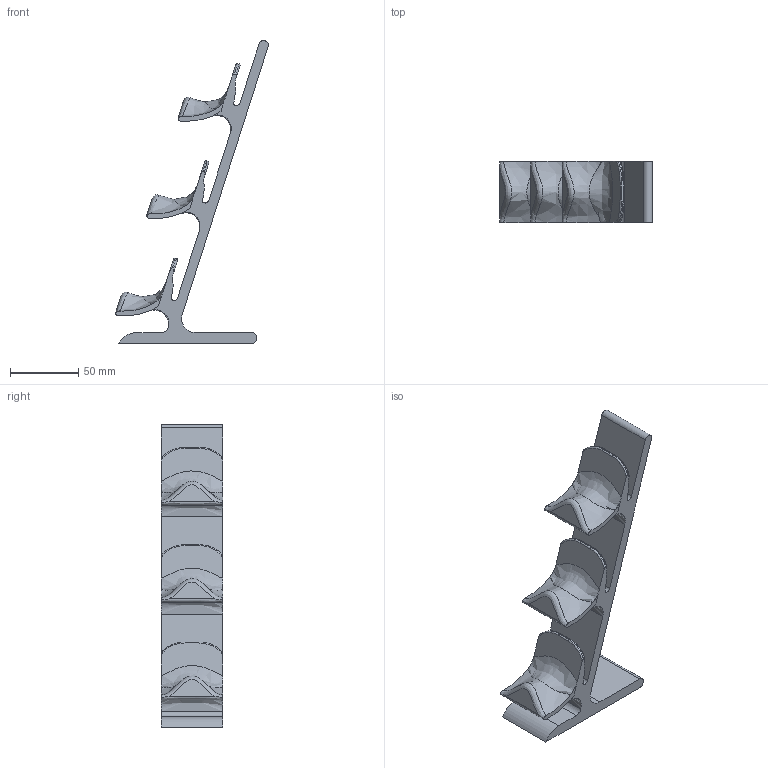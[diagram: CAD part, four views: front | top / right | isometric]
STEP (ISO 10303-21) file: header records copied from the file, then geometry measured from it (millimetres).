
FILE_DESCRIPTION(/* description */ (''),/* implementation_level */ '2;1');
FILE_NAME(/* name */ 'Support lunettes - prsentoire 3 places.step',/* time_stamp */ '2025-07-16T16:20:02+02:00',/* author */ (''),/* organization */ (''),/* preprocessor_version */ 'ST-DEVELOPER v20.1',/* originating_system */ 'Autodesk Translation Framework v14.10.0.0',/* authorisation */ '');
FILE_SCHEMA (('AUTOMOTIVE_DESIGN { 1 0 10303 214 3 1 1 }'));
Length unit declared in the file: millimetre
Products named in the file (1): Support lunettes - présentoire 4 places
Bounding box: 112.06 x 45 x 222.25 mm (x, y, z)
Volume: 181755.2 mm3; surface area: 54363 mm2
Topology: 1 solids, 1 shells, 410 faces, 1170 edges, 776 vertices
Faces by surface type: bspline 300, plane 86, cylinder 24
Entity records: 19034 total; most frequent: CARTESIAN_POINT 10728, ORIENTED_EDGE 2340, EDGE_CURVE 1170, DIRECTION 808, VERTEX_POINT 776, LINE 490, VECTOR 490, B_SPLINE_CURVE_WITH_KNOTS 429
